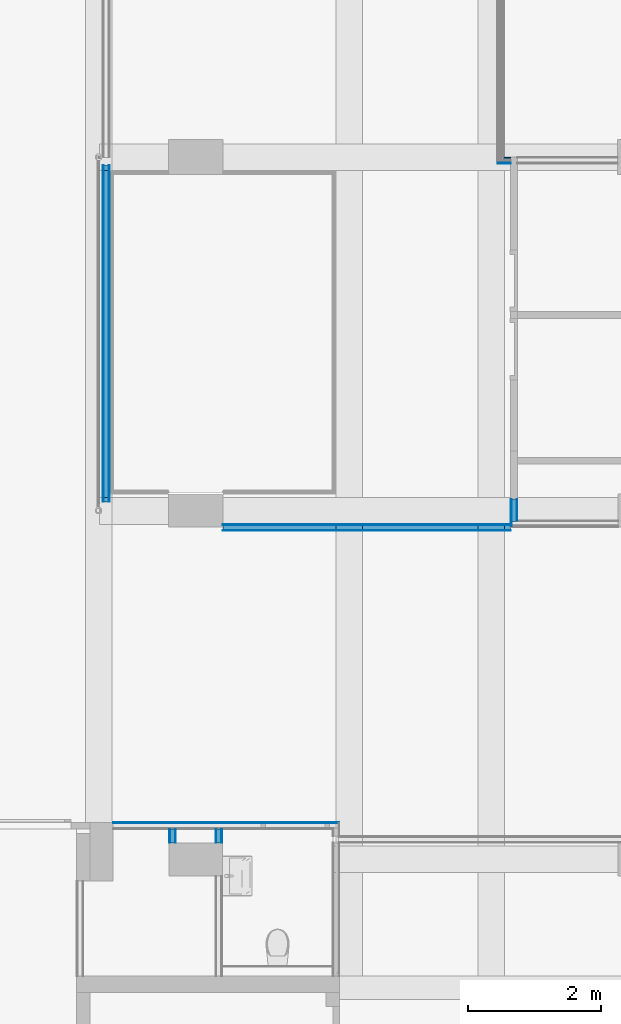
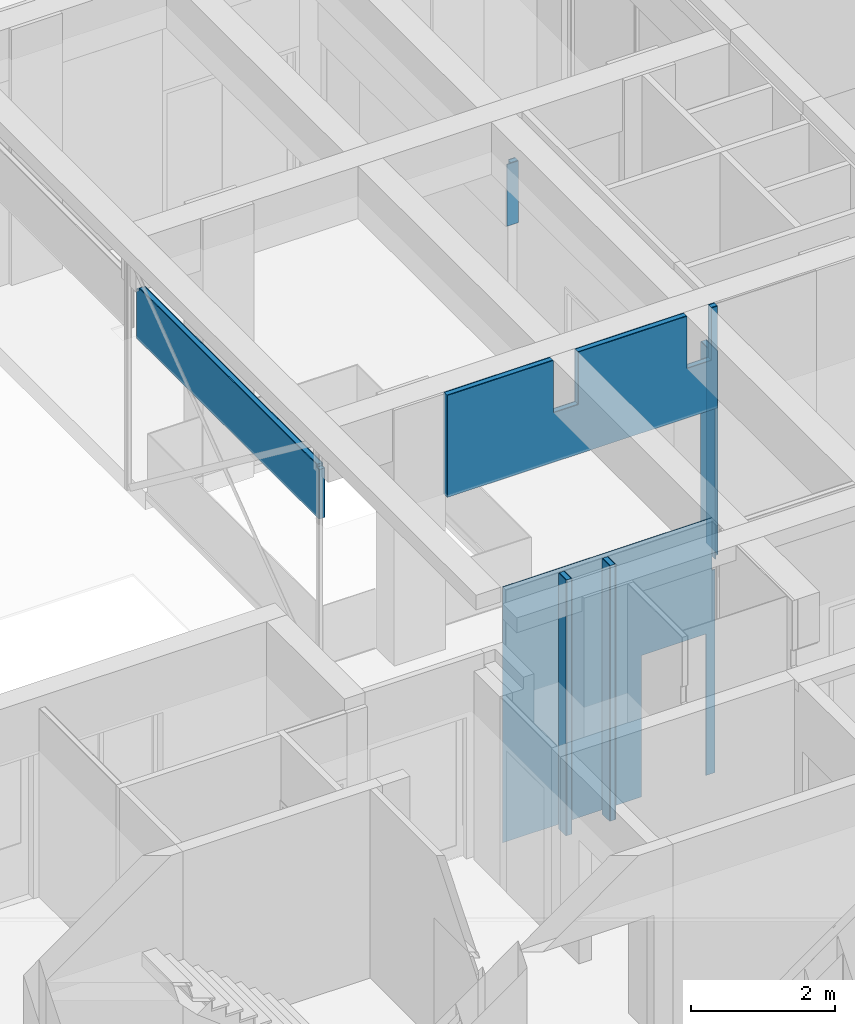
# One storey, part 78 of 117: 19 building element parts, 1 opening, 7 elements without a shape of their own.
"""IFC2X3 building model written with IfcOpenShell, lengths in millimetres."""

from ifc_helpers import new_model, entity, si_unit, converted_unit, derived_unit, money_unit, direction, frame, origin_with_axes, place, context, subcontext, project, spatial, faceted_brep, material, type_object, element, aggregate, save


model = new_model("IFC2X3")

# Units and contexts
model_context = context("Model", 3, precision=0.01, world=origin_with_axes(), true_north=direction((0.0, 1.0)))
body_context = subcontext(model_context, "Body", "Model", "MODEL_VIEW")
ifc_project = project(units=[si_unit("LENGTHUNIT", "METRE", prefix="MILLI"), si_unit("AREAUNIT", "SQUARE_METRE"), si_unit("VOLUMEUNIT", "CUBIC_METRE"), converted_unit("PLANEANGLEUNIT", "DEGREE", entity("IfcPlaneAngleMeasure", 0.0174532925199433), si_unit("PLANEANGLEUNIT", "RADIAN"), dimensions=[0, 0, 0, 0, 0, 0, 0]), money_unit("EUR"), converted_unit("TIMEUNIT", "Year", entity("IfcTimeMeasure", 31557600.0), si_unit("TIMEUNIT", "SECOND"), dimensions=[0, 0, 1, 0, 0, 0, 0]), si_unit("MASSUNIT", "GRAM", prefix="KILO"), si_unit("THERMODYNAMICTEMPERATUREUNIT", "DEGREE_CELSIUS"), si_unit("LUMINOUSINTENSITYUNIT", "LUMEN"), si_unit("ENERGYUNIT", "JOULE", prefix="MEGA"), derived_unit("THERMALCONDUCTANCEUNIT", [(si_unit("POWERUNIT", "WATT"), 1), (si_unit("LENGTHUNIT", "METRE"), -1), (si_unit("THERMODYNAMICTEMPERATUREUNIT", "KELVIN"), -1)]), derived_unit("SPECIFICHEATCAPACITYUNIT", [(si_unit("ENERGYUNIT", "JOULE"), 1), (si_unit("MASSUNIT", "GRAM", prefix="KILO"), -1), (si_unit("THERMODYNAMICTEMPERATUREUNIT", "KELVIN"), -1)]), derived_unit("MASSDENSITYUNIT", [(si_unit("MASSUNIT", "GRAM", prefix="KILO"), 1), (si_unit("VOLUMEUNIT", "CUBIC_METRE"), -1)])], contexts=[model_context])

# Site, building, storey
site_placement = place(None, origin_with_axes())
site = spatial("IfcSite", under=ifc_project, at=site_placement, Name="Site", CompositionType="ELEMENT")
building_placement = place(site_placement, origin_with_axes())
building = spatial("IfcBuilding", under=site, at=building_placement, Name="Naam gebouw", CompositionType="ELEMENT")
storey_placement = place(building_placement, frame((0.0, 0.0, 4150.0), z_axis=(0.0, 0.0, 1.0), x_axis=(1.0, 0.0, 0.0)))
storey = spatial("IfcBuildingStorey", under=building, at=storey_placement, Name="1e verdieping N", CompositionType="ELEMENT", Elevation=4150.0)

# Wall, building element parts
wall_type = type_object("IfcWallType", Name="Metalstud iso 100 100", PredefinedType="NOTDEFINED")
wall_1_placement = place(storey_placement, frame((26586.0, 22795.91242510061, 0.0), z_axis=(0.0, 0.0, 1.0), x_axis=(0.0, -1.0, 0.0)))
wall_1 = element("IfcWall", 1, at=wall_1_placement, inside=storey, type_object=wall_type, Name="_Wand-x")
ifc_material_1 = material(Name="Gipsplaat")
building_element_part_1_placement = place(wall_1_placement, origin_with_axes())
building_element_part_1 = element("IfcBuildingElementPart", 2, at=building_element_part_1_placement, material=ifc_material_1, Name="Gipsplaat", context=body_context, shape_type="Brep", body=[
    faceted_brep([(319.9999999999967, 100.0000000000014, 3449.999999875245), (0.0, 100.0000000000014, 3449.999999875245), (0.0, 87.49999999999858, 3449.999999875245), (319.9999999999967, 87.49999999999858, 3449.999999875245), (319.9999999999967, 100.0000000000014, 0.0), (0.0, 100.0000000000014, 0.0), (0.0, 87.49999999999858, 0.0), (319.9999999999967, 87.49999999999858, 0.0)], [[[0, 1, 2, 3]], [[4, 5, 1, 0]], [[2, 1, 5, 6]], [[3, 2, 6, 7]], [[3, 7, 4, 0]], [[7, 6, 5, 4]]]),
])
ifc_material_2 = material(Name="Isolatie - Steenwol LSW")
building_element_part_2_placement = place(wall_1_placement, origin_with_axes())
building_element_part_2 = element("IfcBuildingElementPart", 3, at=building_element_part_2_placement, material=ifc_material_2, Name="Isolatie - Steenwol LSW", context=body_context, shape_type="Brep", body=[
    faceted_brep([(332.499999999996, 87.49999999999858, 3449.999999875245), (0.0, 87.49999999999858, 3449.999999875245), (0.0, 12.49999999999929, 3449.999999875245), (332.499999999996, 12.49999999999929, 3449.999999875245), (332.499999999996, 87.49999999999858, 0.0), (0.0, 87.49999999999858, 0.0), (0.0, 12.49999999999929, 0.0), (332.499999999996, 12.49999999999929, 0.0)], [[[0, 1, 2, 3]], [[4, 5, 1, 0]], [[2, 1, 5, 6]], [[3, 2, 6, 7]], [[3, 7, 4, 0]], [[7, 6, 5, 4]]]),
])
building_element_part_3_placement = place(wall_1_placement, origin_with_axes())
building_element_part_3 = element("IfcBuildingElementPart", 4, at=building_element_part_3_placement, material=ifc_material_1, Name="Gipsplaat", context=body_context, shape_type="Brep", body=[
    faceted_brep([(407.4999999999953, 12.49999999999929, 3449.999999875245), (0.0, 12.49999999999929, 3449.999999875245), (0.0, 0.0, 3449.999999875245), (407.4999999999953, 0.0, 3449.999999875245), (407.4999999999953, 12.49999999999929, 0.0), (0.0, 12.49999999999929, 0.0), (0.0, 0.0, 0.0), (407.4999999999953, 0.0, 0.0)], [[[0, 1, 2, 3]], [[4, 5, 1, 0]], [[2, 1, 5, 6]], [[3, 2, 6, 7]], [[3, 7, 4, 0]], [[7, 6, 5, 4]]]),
])
aggregate(wall_1, [building_element_part_1, building_element_part_2, building_element_part_3])

wall_2_placement = place(storey_placement, frame((22236.0, 17824.75122651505, 0.0), z_axis=(0.0, 0.0, 1.0), x_axis=(0.0, -1.0, 0.0)))
wall_2 = element("IfcWall", 5, at=wall_2_placement, inside=storey, type_object=wall_type, Name="_Wand-x")
building_element_part_4_placement = place(wall_2_placement, origin_with_axes())
building_element_part_4 = element("IfcBuildingElementPart", 6, at=building_element_part_4_placement, material=ifc_material_1, Name="Gipsplaat", context=body_context, shape_type="Brep", body=[
    faceted_brep([(0.0, -12.49999999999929, 4340.0), (208.8388014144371, -12.49999999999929, 4340.0), (208.8388014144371, 0.0, 4340.0), (0.0, 0.0, 4340.0), (0.0, -12.49999999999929, 0.0), (208.8388014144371, -12.49999999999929, 0.0), (208.8388014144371, 0.0, 0.0), (0.0, 0.0, 0.0)], [[[0, 1, 2, 3]], [[4, 5, 1, 0]], [[2, 1, 5, 6]], [[3, 2, 6, 7]], [[4, 0, 3, 7]], [[7, 6, 5, 4]]]),
])
building_element_part_5_placement = place(wall_2_placement, origin_with_axes())
building_element_part_5 = element("IfcBuildingElementPart", 7, at=building_element_part_5_placement, material=ifc_material_2, Name="Isolatie - Steenwol LSW", context=body_context, shape_type="Brep", body=[
    faceted_brep([(0.0, -87.49999999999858, 4340.0), (208.8388014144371, -87.49999999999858, 4340.0), (208.8388014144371, -12.49999999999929, 4340.0), (0.0, -12.49999999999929, 4340.0), (0.0, -87.49999999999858, 0.0), (208.8388014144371, -87.49999999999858, 0.0), (208.8388014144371, -12.49999999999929, 0.0), (0.0, -12.49999999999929, 0.0)], [[[0, 1, 2, 3]], [[4, 5, 1, 0]], [[2, 1, 5, 6]], [[3, 2, 6, 7]], [[4, 0, 3, 7]], [[7, 6, 5, 4]]]),
])
building_element_part_6_placement = place(wall_2_placement, origin_with_axes())
building_element_part_6 = element("IfcBuildingElementPart", 8, at=building_element_part_6_placement, material=ifc_material_1, Name="Gipsplaat", context=body_context, shape_type="Brep", body=[
    faceted_brep([(0.0, -100.0000000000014, 4340.0), (208.8388014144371, -100.0000000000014, 4340.0), (208.8388014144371, -87.49999999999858, 4340.0), (0.0, -87.49999999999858, 4340.0), (0.0, -100.0000000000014, 0.0), (208.8388014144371, -100.0000000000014, 0.0), (208.8388014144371, -87.49999999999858, 0.0), (0.0, -87.49999999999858, 0.0)], [[[0, 1, 2, 3]], [[4, 5, 1, 0]], [[2, 1, 5, 6]], [[3, 2, 6, 7]], [[4, 0, 3, 7]], [[7, 6, 5, 4]]]),
])
aggregate(wall_2, [building_element_part_4, building_element_part_5, building_element_part_6])

wall_3_placement = place(storey_placement, frame((26586.0, 22420.09780839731, 2609.999999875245), z_axis=(0.0, 0.0, 1.0), x_axis=(-1.0, 0.0, 0.0)))
wall_3 = element("IfcWall", 9, at=wall_3_placement, inside=storey, type_object=wall_type, Name="_Wand-x")
building_element_part_7_placement = place(wall_3_placement, origin_with_axes())
building_element_part_7 = element("IfcBuildingElementPart", 10, at=building_element_part_7_placement, material=ifc_material_2, Name="Isolatie - Steenwol LSW", context=body_context, shape_type="Brep", body=[
    faceted_brep([(493.9999999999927, 12.49999999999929, 1730.000000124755), (493.9999999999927, 12.49999999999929, 839.9999999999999), (93.99999999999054, 12.49999999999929, 839.9999999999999), (93.99999999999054, 12.49999999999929, 1730.000000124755), (0.0, 12.49999999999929, 1730.000000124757), (0.0, 12.49999999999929, 0.0), (4340.0, 12.49999999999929, 0.0), (4340.0, 12.49999999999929, 1730.000000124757), (2636.000000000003, 12.49999999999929, 1730.000000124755), (2636.000000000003, 12.49999999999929, 839.9999999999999), (2236.0, 12.49999999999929, 839.9999999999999), (2236.0, 12.49999999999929, 1730.000000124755), (493.9999999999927, 87.49999999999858, 839.9999999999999), (493.9999999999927, 87.49999999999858, 1730.000000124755), (93.99999999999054, 87.49999999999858, 839.9999999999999), (93.99999999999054, 87.49999999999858, 1730.000000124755), (0.0, 87.49999999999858, 1730.000000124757), (0.0, 87.49999999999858, 0.0), (4340.0, 87.49999999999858, 0.0), (4340.0, 87.49999999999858, 1730.000000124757), (2636.000000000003, 87.49999999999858, 1730.000000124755), (2636.000000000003, 87.49999999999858, 839.9999999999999), (2236.0, 87.49999999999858, 839.9999999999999), (2236.0, 87.49999999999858, 1730.000000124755)], [[[0, 1, 2, 3, 4, 5, 6, 7, 8, 9, 10, 11]], [[12, 1, 0, 13]], [[14, 2, 1, 12]], [[14, 15, 3, 2]], [[4, 3, 15, 16]], [[17, 5, 4, 16]], [[5, 17, 18, 6]], [[18, 19, 7, 6]], [[19, 20, 8, 7]], [[21, 9, 8, 20]], [[22, 10, 9, 21]], [[22, 23, 11, 10]], [[23, 13, 0, 11]], [[14, 12, 13, 23, 22, 21, 20, 19, 18, 17, 16, 15]]]),
])
building_element_part_8_placement = place(wall_3_placement, origin_with_axes())
building_element_part_8 = element("IfcBuildingElementPart", 11, at=building_element_part_8_placement, material=ifc_material_1, Name="Gipsplaat", context=body_context, shape_type="Brep", body=[
    faceted_brep([(493.9999999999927, 87.49999999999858, 839.9999999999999), (93.99999999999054, 87.49999999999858, 839.9999999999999), (93.99999999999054, 87.49999999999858, 1730.000000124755), (0.0, 87.49999999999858, 1730.000000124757), (0.0, 87.49999999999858, 0.0), (4340.0, 87.49999999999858, 0.0), (4340.0, 87.49999999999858, 1730.000000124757), (2636.000000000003, 87.49999999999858, 1730.000000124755), (2636.000000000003, 87.49999999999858, 839.9999999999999), (2236.0, 87.49999999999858, 839.9999999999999), (2236.0, 87.49999999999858, 1730.000000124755), (493.9999999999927, 87.49999999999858, 1730.000000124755), (493.9999999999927, 100.0000000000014, 839.9999999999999), (93.99999999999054, 100.0000000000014, 839.9999999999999), (93.99999999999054, 100.0000000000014, 1730.000000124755), (0.0, 100.0000000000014, 1730.000000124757), (0.0, 100.0000000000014, 0.0), (4340.0, 100.0000000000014, 0.0), (4340.0, 100.0000000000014, 1730.000000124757), (2636.000000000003, 100.0000000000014, 1730.000000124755), (2636.000000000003, 100.0000000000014, 839.9999999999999), (2236.0, 100.0000000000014, 839.9999999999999), (2236.0, 100.0000000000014, 1730.000000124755), (493.9999999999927, 100.0000000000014, 1730.000000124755)], [[[0, 1, 2, 3, 4, 5, 6, 7, 8, 9, 10, 11]], [[1, 0, 12, 13]], [[14, 2, 1, 13]], [[2, 14, 15, 3]], [[4, 3, 15, 16]], [[16, 17, 5, 4]], [[18, 6, 5, 17]], [[19, 7, 6, 18]], [[8, 7, 19, 20]], [[9, 8, 20, 21]], [[22, 10, 9, 21]], [[23, 11, 10, 22]], [[0, 11, 23, 12]], [[12, 23, 22, 21, 20, 19, 18, 17, 16, 15, 14, 13]]]),
])
building_element_part_9_placement = place(wall_3_placement, origin_with_axes())
building_element_part_9 = element("IfcBuildingElementPart", 12, at=building_element_part_9_placement, material=ifc_material_1, Name="Gipsplaat", context=body_context, shape_type="Brep", body=[
    faceted_brep([(493.9999999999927, 0.0, 1730.000000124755), (493.9999999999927, 0.0, 839.9999999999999), (93.99999999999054, 0.0, 839.9999999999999), (93.99999999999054, 0.0, 1730.000000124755), (0.0, 0.0, 1730.000000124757), (0.0, 0.0, 0.0), (4340.0, 0.0, 0.0), (4340.0, 0.0, 1730.000000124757), (2636.000000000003, 0.0, 1730.000000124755), (2636.000000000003, 0.0, 839.9999999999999), (2236.0, 0.0, 839.9999999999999), (2236.0, 0.0, 1730.000000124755), (493.9999999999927, 12.49999999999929, 839.9999999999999), (493.9999999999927, 12.49999999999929, 1730.000000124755), (93.99999999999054, 12.49999999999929, 839.9999999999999), (93.99999999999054, 12.49999999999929, 1730.000000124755), (0.0, 12.49999999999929, 1730.000000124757), (0.0, 12.49999999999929, 0.0), (4340.0, 12.49999999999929, 0.0), (4340.0, 12.49999999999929, 1730.000000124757), (2636.000000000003, 12.49999999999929, 1730.000000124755), (2636.000000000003, 12.49999999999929, 839.9999999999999), (2236.0, 12.49999999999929, 839.9999999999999), (2236.0, 12.49999999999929, 1730.000000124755)], [[[0, 1, 2, 3, 4, 5, 6, 7, 8, 9, 10, 11]], [[12, 1, 0, 13]], [[14, 2, 1, 12]], [[14, 15, 3, 2]], [[4, 3, 15, 16]], [[17, 5, 4, 16]], [[5, 17, 18, 6]], [[18, 19, 7, 6]], [[19, 20, 8, 7]], [[21, 9, 8, 20]], [[22, 10, 9, 21]], [[22, 23, 11, 10]], [[23, 13, 0, 11]], [[14, 12, 13, 23, 22, 21, 20, 19, 18, 17, 16, 15]]]),
])
aggregate(wall_3, [building_element_part_7, building_element_part_8, building_element_part_9])

wall_4_placement = place(storey_placement, frame((26586.0, 27905.75206385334, 2400.0), z_axis=(0.0, 0.0, 1.0), x_axis=(-0.9999994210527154, 0.001076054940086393, 0.0)))
wall_4 = element("IfcWall", 13, at=wall_4_placement, inside=storey, type_object=wall_type, Name="_Wand-x")
building_element_part_10_placement = place(wall_4_placement, origin_with_axes())
building_element_part_10 = element("IfcBuildingElementPart", 14, at=building_element_part_10_placement, material=ifc_material_1, Name="Gipsplaat", context=body_context, shape_type="Brep", body=[
    faceted_brep([(187.4463057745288, 50.00000000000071, 1049.999999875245), (0.0, 50.00000000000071, 1049.999999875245), (0.0, 37.50000000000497, 1049.999999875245), (187.4597564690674, 37.50000000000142, 1049.999999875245), (187.4463057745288, 50.00000000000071, 0.0), (0.0, 50.00000000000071, 0.0), (0.0, 37.50000000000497, 0.0), (187.4597564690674, 37.50000000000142, 0.0)], [[[0, 1, 2, 3]], [[4, 5, 1, 0]], [[2, 1, 5, 6]], [[3, 2, 6, 7]], [[3, 7, 4, 0]], [[7, 6, 5, 4]]]),
])
building_element_part_11_placement = place(wall_4_placement, origin_with_axes())
building_element_part_11 = element("IfcBuildingElementPart", 15, at=building_element_part_11_placement, material=ifc_material_2, Name="Isolatie - Steenwol LSW", context=body_context, shape_type="Brep", body=[
    faceted_brep([(112.4597130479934, 37.50000000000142, 1049.999999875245), (0.0, 37.50000000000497, 1049.999999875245), (0.0, -37.49999999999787, 1049.999999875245), (112.5404172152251, -37.50000000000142, 1049.999999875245), (112.4597130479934, 37.50000000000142, 0.0), (0.0, 37.50000000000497, 0.0), (0.0, -37.49999999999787, 0.0), (112.5404172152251, -37.50000000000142, 0.0)], [[[0, 1, 2, 3]], [[4, 5, 1, 0]], [[2, 1, 5, 6]], [[3, 2, 6, 7]], [[3, 7, 4, 0]], [[7, 6, 5, 4]]]),
])
building_element_part_12_placement = place(wall_4_placement, origin_with_axes())
building_element_part_12 = element("IfcBuildingElementPart", 16, at=building_element_part_12_placement, material=ifc_material_1, Name="Gipsplaat", context=body_context, shape_type="Brep", body=[
    faceted_brep([(100.0404099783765, -37.50000000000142, 1049.999999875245), (0.0, -37.49999999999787, 1049.999999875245), (0.0, -49.99999999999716, 1049.999999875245), (100.0538606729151, -50.00000000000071, 1049.999999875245), (100.0404099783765, -37.50000000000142, 0.0), (0.0, -37.49999999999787, 0.0), (0.0, -49.99999999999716, 0.0), (100.0538606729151, -50.00000000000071, 0.0)], [[[0, 1, 2, 3]], [[4, 5, 1, 0]], [[2, 1, 5, 6]], [[3, 2, 6, 7]], [[3, 7, 4, 0]], [[7, 6, 5, 4]]]),
])
aggregate(wall_4, [building_element_part_10, building_element_part_11, building_element_part_12])

# Wall, opening, building element part
wall_5_placement = place(storey_placement, frame((20590.99999999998, 17824.75122651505, 0.0), z_axis=(0.0, 0.0, 1.0), x_axis=(1.0, 0.0, 0.0)))
wall_5 = element("IfcWall", 17, at=wall_5_placement, inside=storey, type_object=wall_type, Name="_Wand-x")
opening_placement = place(wall_5_placement, frame((2744.999999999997, 0.0, 0.0), z_axis=(0.0, 0.0, 1.0), x_axis=(1.0, 0.0, 0.0)))
element("IfcOpeningElement", 18, at=opening_placement, cuts=wall_5, Name="_Merk-x", context=body_context, shape_type="Brep", body=[
    faceted_brep([(516.9999999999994, 101.0000000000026, 2400.0), (516.9999999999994, 101.0000000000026, 0.0), (-516.9999999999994, 101.0000000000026, 0.0), (-516.9999999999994, 101.0000000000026, 2400.0), (516.9999999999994, -1.000000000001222, 2400.0), (516.9999999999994, -1.000000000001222, 0.0), (-516.9999999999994, -1.000000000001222, 0.0), (-516.9999999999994, -1.000000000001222, 2400.0)], [[[0, 1, 2, 3]], [[4, 5, 1, 0]], [[5, 6, 2, 1]], [[6, 7, 3, 2]], [[7, 4, 0, 3]], [[6, 5, 4, 7]]]),
])
building_element_part_13_placement = place(wall_5_placement, origin_with_axes())
building_element_part_13 = element("IfcBuildingElementPart", 19, at=building_element_part_13_placement, material=ifc_material_1, Name="Gipsplaat", context=body_context, shape_type="Brep", body=[
    faceted_brep([(2227.999999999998, 100.0000000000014, 2400.0), (2227.999999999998, 100.0000000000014, 0.0), (0.0, 100.0000000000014, 0.0), (0.0, 100.0000000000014, 4340.0), (3359.000000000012, 100.0000000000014, 4340.0), (3359.000000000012, 100.0000000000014, 3449.999999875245), (3411.999999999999, 100.0000000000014, 3449.999999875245), (3411.999999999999, 100.0000000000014, 0.0), (3261.999999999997, 100.0000000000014, 0.0), (3261.999999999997, 100.0000000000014, 2400.0), (2227.999999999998, 87.50000000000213, 2400.0), (2227.999999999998, 87.49999999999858, 0.0), (0.0, 87.49999999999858, 0.0), (0.0, 87.49999999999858, 4340.0), (3359.000000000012, 87.50000000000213, 4340.0), (3359.000000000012, 87.50000000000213, 3449.999999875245), (3411.999999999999, 87.50000000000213, 3449.999999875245), (3411.999999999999, 87.49999999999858, 0.0), (3261.999999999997, 87.49999999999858, 0.0), (3261.999999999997, 87.50000000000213, 2400.0)], [[[0, 1, 2, 3, 4, 5, 6, 7, 8, 9]], [[1, 0, 10, 11]], [[1, 11, 12, 2]], [[13, 3, 2, 12]], [[4, 3, 13, 14]], [[4, 14, 15, 5]], [[6, 5, 15, 16]], [[16, 17, 7, 6]], [[18, 8, 7, 17]], [[9, 8, 18, 19]], [[0, 9, 19, 10]], [[19, 18, 17, 16, 15, 14, 13, 12, 11, 10]]]),
])
aggregate(wall_5, [building_element_part_13])

# Wall, building element parts
wall_6_placement = place(storey_placement, frame((21436.0, 17824.75122651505, 0.0), z_axis=(0.0, 0.0, 1.0), x_axis=(0.0, -1.0, 0.0)))
wall_6 = element("IfcWall", 20, at=wall_6_placement, inside=storey, type_object=wall_type, Name="_Wand-x")
building_element_part_14_placement = place(wall_6_placement, origin_with_axes())
building_element_part_14 = element("IfcBuildingElementPart", 21, at=building_element_part_14_placement, material=ifc_material_1, Name="Gipsplaat", context=body_context, shape_type="Brep", body=[
    faceted_brep([(0.0, 12.49999999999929, 0.0), (208.8388014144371, 12.49999999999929, 0.0), (208.8388014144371, 0.0, 0.0), (0.0, 0.0, 0.0), (0.0, 12.49999999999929, 4340.0), (208.8388014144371, 12.49999999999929, 4340.0), (208.8388014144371, 0.0, 4340.0), (0.0, 0.0, 4340.0)], [[[0, 1, 2, 3]], [[4, 5, 1, 0]], [[2, 1, 5, 6]], [[3, 2, 6, 7]], [[4, 0, 3, 7]], [[7, 6, 5, 4]]]),
])
building_element_part_15_placement = place(wall_6_placement, origin_with_axes())
building_element_part_15 = element("IfcBuildingElementPart", 22, at=building_element_part_15_placement, material=ifc_material_2, Name="Isolatie - Steenwol LSW", context=body_context, shape_type="Brep", body=[
    faceted_brep([(0.0, 87.49999999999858, 0.0), (208.8388014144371, 87.49999999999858, 0.0), (208.8388014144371, 12.49999999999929, 0.0), (0.0, 12.49999999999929, 0.0), (0.0, 87.49999999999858, 4340.0), (208.8388014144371, 87.49999999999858, 4340.0), (208.8388014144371, 12.49999999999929, 4340.0), (0.0, 12.49999999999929, 4340.0)], [[[0, 1, 2, 3]], [[4, 5, 1, 0]], [[2, 1, 5, 6]], [[3, 2, 6, 7]], [[4, 0, 3, 7]], [[7, 6, 5, 4]]]),
])
building_element_part_16_placement = place(wall_6_placement, origin_with_axes())
building_element_part_16 = element("IfcBuildingElementPart", 23, at=building_element_part_16_placement, material=ifc_material_1, Name="Gipsplaat", context=body_context, shape_type="Brep", body=[
    faceted_brep([(0.0, 100.0000000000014, 0.0), (208.8388014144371, 100.0000000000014, 0.0), (208.8388014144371, 87.49999999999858, 0.0), (0.0, 87.49999999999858, 0.0), (0.0, 100.0000000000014, 4340.0), (208.8388014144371, 100.0000000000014, 4340.0), (208.8388014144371, 87.49999999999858, 4340.0), (0.0, 87.49999999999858, 4340.0)], [[[0, 1, 2, 3]], [[4, 5, 1, 0]], [[2, 1, 5, 6]], [[3, 2, 6, 7]], [[4, 0, 3, 7]], [[7, 6, 5, 4]]]),
])
aggregate(wall_6, [building_element_part_14, building_element_part_15, building_element_part_16])

wall_7_placement = place(storey_placement, frame((20536.00000000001, 22755.92805130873, 2609.999999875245), z_axis=(0.0, 0.0, 1.0), x_axis=(0.0, 1.0, 0.0)))
wall_7 = element("IfcWall", 24, at=wall_7_placement, inside=storey, type_object=wall_type, Name="_Wand-x")
building_element_part_17_placement = place(wall_7_placement, origin_with_axes())
building_element_part_17 = element("IfcBuildingElementPart", 25, at=building_element_part_17_placement, material=ifc_material_1, Name="Gipsplaat", context=body_context, shape_type="Brep", body=[
    faceted_brep([(5074.984374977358, 100.0000000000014, 839.9999999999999), (5074.984374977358, 87.49999999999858, 839.9999999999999), (5074.984374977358, 87.49999999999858, 0.0), (5074.984374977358, 100.0000000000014, 0.0), (4999.984373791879, 87.49999999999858, 839.9999999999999), (4999.984373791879, 100.0000000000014, 839.9999999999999), (4999.984373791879, 87.49999999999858, 890.0000001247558), (64.16975708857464, 87.49999999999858, 890.0000001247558), (64.16975708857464, 87.49999999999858, 839.9999999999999), (0.0, 87.49999999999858, 839.9999999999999), (0.0, 87.49999999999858, 0.0), (0.0, 100.0000000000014, 0.0), (0.0, 100.0000000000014, 839.9999999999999), (64.16975708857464, 100.0000000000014, 839.9999999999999), (64.16975708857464, 100.0000000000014, 890.0000001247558), (4999.984373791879, 100.0000000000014, 890.0000001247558)], [[[0, 1, 2, 3]], [[4, 1, 0, 5]], [[4, 6, 7, 8, 9, 10, 2, 1]], [[11, 3, 2, 10]], [[5, 0, 3, 11, 12, 13, 14, 15]], [[15, 6, 4, 5]], [[6, 15, 14, 7]], [[8, 7, 14, 13]], [[9, 8, 13, 12]], [[9, 12, 11, 10]]]),
])
building_element_part_18_placement = place(wall_7_placement, origin_with_axes())
building_element_part_18 = element("IfcBuildingElementPart", 26, at=building_element_part_18_placement, material=ifc_material_2, Name="Isolatie - Steenwol LSW", context=body_context, shape_type="Brep", body=[
    faceted_brep([(5074.984374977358, 87.49999999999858, 839.9999999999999), (5074.984374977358, 12.49999999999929, 839.9999999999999), (5074.984374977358, 12.49999999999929, 0.0), (5074.984374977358, 87.49999999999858, 0.0), (4999.984373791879, 12.49999999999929, 839.9999999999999), (4999.984373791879, 87.49999999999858, 839.9999999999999), (4999.984373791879, 12.49999999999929, 890.0000001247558), (64.16975708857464, 12.49999999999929, 890.0000001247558), (64.16975708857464, 12.49999999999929, 839.9999999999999), (0.0, 12.49999999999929, 839.9999999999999), (0.0, 12.49999999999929, 0.0), (0.0, 87.49999999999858, 0.0), (0.0, 87.49999999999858, 839.9999999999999), (64.16975708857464, 87.49999999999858, 839.9999999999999), (64.16975708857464, 87.49999999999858, 890.0000001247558), (4999.984373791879, 87.49999999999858, 890.0000001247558)], [[[0, 1, 2, 3]], [[4, 1, 0, 5]], [[4, 6, 7, 8, 9, 10, 2, 1]], [[11, 3, 2, 10]], [[5, 0, 3, 11, 12, 13, 14, 15]], [[15, 6, 4, 5]], [[6, 15, 14, 7]], [[8, 7, 14, 13]], [[9, 8, 13, 12]], [[9, 12, 11, 10]]]),
])
building_element_part_19_placement = place(wall_7_placement, origin_with_axes())
building_element_part_19 = element("IfcBuildingElementPart", 27, at=building_element_part_19_placement, material=ifc_material_1, Name="Gipsplaat", context=body_context, shape_type="Brep", body=[
    faceted_brep([(5074.984374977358, 12.49999999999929, 839.9999999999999), (5074.984374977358, 0.0, 839.9999999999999), (5074.984374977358, 0.0, 0.0), (5074.984374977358, 12.49999999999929, 0.0), (4999.984373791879, 0.0, 839.9999999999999), (4999.984373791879, 12.49999999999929, 839.9999999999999), (4999.984373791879, 0.0, 890.0000001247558), (64.16975708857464, 0.0, 890.0000001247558), (64.16975708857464, 0.0, 839.9999999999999), (0.0, 0.0, 839.9999999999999), (0.0, 0.0, 0.0), (0.0, 12.49999999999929, 0.0), (0.0, 12.49999999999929, 839.9999999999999), (64.16975708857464, 12.49999999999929, 839.9999999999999), (64.16975708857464, 12.49999999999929, 890.0000001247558), (4999.984373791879, 12.49999999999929, 890.0000001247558)], [[[0, 1, 2, 3]], [[4, 1, 0, 5]], [[4, 6, 7, 8, 9, 10, 2, 1]], [[11, 3, 2, 10]], [[5, 0, 3, 11, 12, 13, 14, 15]], [[15, 6, 4, 5]], [[6, 15, 14, 7]], [[8, 7, 14, 13]], [[9, 8, 13, 12]], [[9, 12, 11, 10]]]),
])
aggregate(wall_7, [building_element_part_17, building_element_part_18, building_element_part_19])

save(model, "model.ifc")
